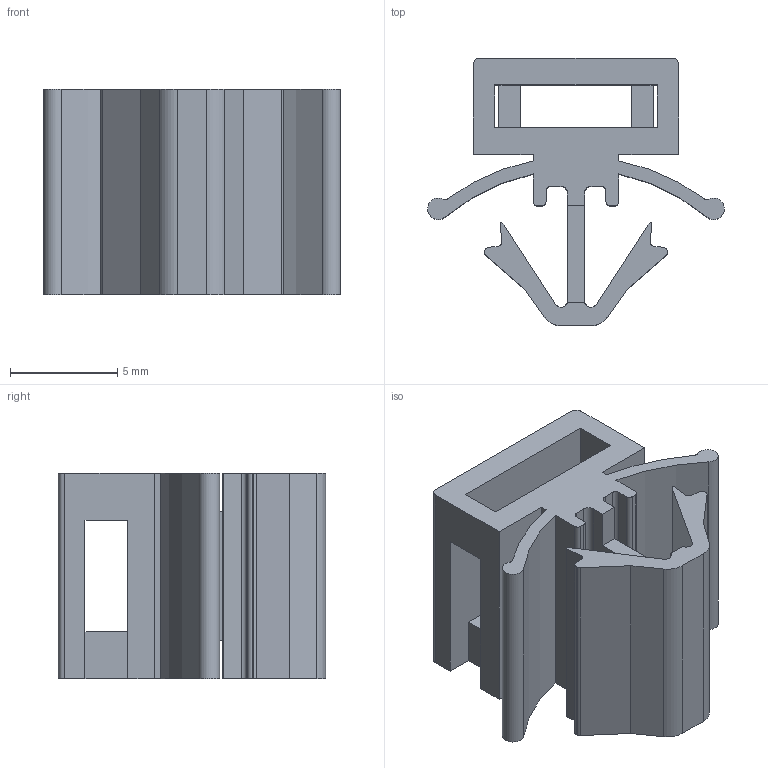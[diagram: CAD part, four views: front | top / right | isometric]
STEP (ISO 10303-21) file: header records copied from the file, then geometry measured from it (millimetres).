
FILE_DESCRIPTION((''),'2;1');
FILE_NAME('\\Dtp_2\share\iriguchi2\他\ATC-46.stp','2014-12-02T16:34:44',('AMS8'),(''),'Autodesk Inventor 2008','Autodesk Inventor 2008','');
FILE_SCHEMA(('AUTOMOTIVE_DESIGN { 1 0 10303 214 1 1 1 1 }'));
Length unit declared in the file: millimetre
Products named in the file (1): ATC-46_△1
Bounding box: 13.86 x 12.5 x 9.6 mm (x, y, z)
Volume: 516.9 mm3; surface area: 1138.4 mm2
Topology: 1 solids, 1 shells, 90 faces, 274 edges, 182 vertices
Faces by surface type: plane 56, cylinder 34
Entity records: 3112 total; most frequent: ORIENTED_EDGE 548, CARTESIAN_POINT 547, DIRECTION 528, EDGE_CURVE 274, VECTOR 202, LINE 202, VERTEX_POINT 182, AXIS2_PLACEMENT_3D 163
